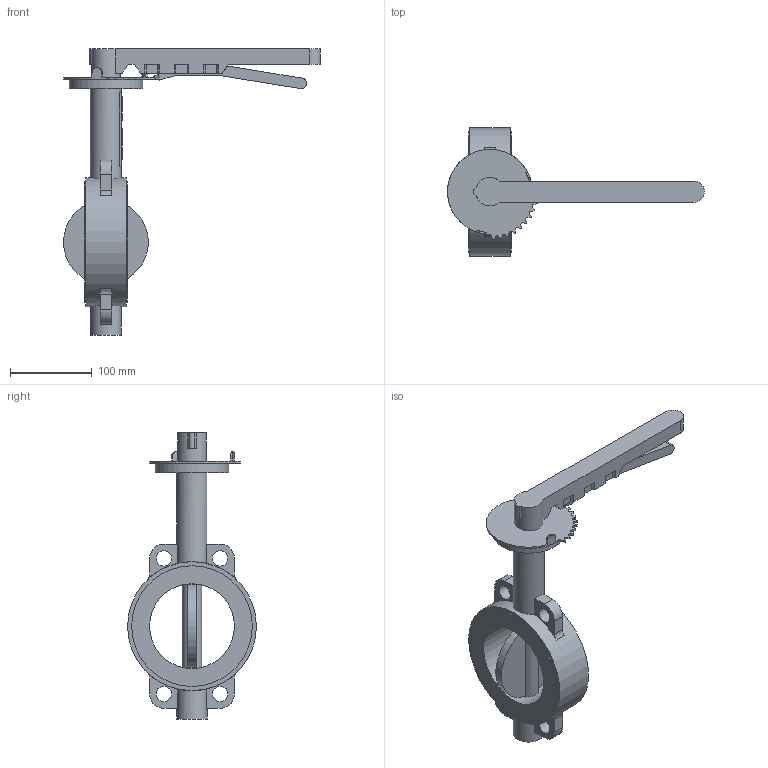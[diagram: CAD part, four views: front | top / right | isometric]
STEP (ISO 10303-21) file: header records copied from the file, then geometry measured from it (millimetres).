
FILE_DESCRIPTION(('STEP AP203'), '1');
FILE_NAME('Çàòâîð 017W.Z(÷óãóí) DN100 PN10_16 ðóêîÿòêà', '', ('UNSPECIFIED'), ('UNSPECIFIED'), 'ASCON STEP Converter 1.6', 'ASCON Math Kernel', '');
FILE_SCHEMA(('CONFIG_CONTROL_DESIGN'));
Length unit declared in the file: millimetre
Bounding box: 315 x 158 x 351 mm (x, y, z)
Volume: 222768.4 mm3; surface area: 183731.8 mm2
Topology: 1 solids, 2 shells, 736 faces, 2166 edges, 1397 vertices
Faces by surface type: cylinder 487, plane 249
Full cylindrical faces by diameter (mm): 10 x4, 15.9 x1, 19 x4, 24 x1, 35 x1, 38 x2, 55 x1, 90 x1, 104 x1, 148 x2, 158 x1
Entity records: 31636 total; most frequent: CARTESIAN_POINT 5220, DIRECTION 4624, ORIENTED_EDGE 4233, EDGE_CURVE 2148, AXIS2_PLACEMENT_3D 1769, VERTEX_POINT 1397, LINE 1086, VECTOR 1086
